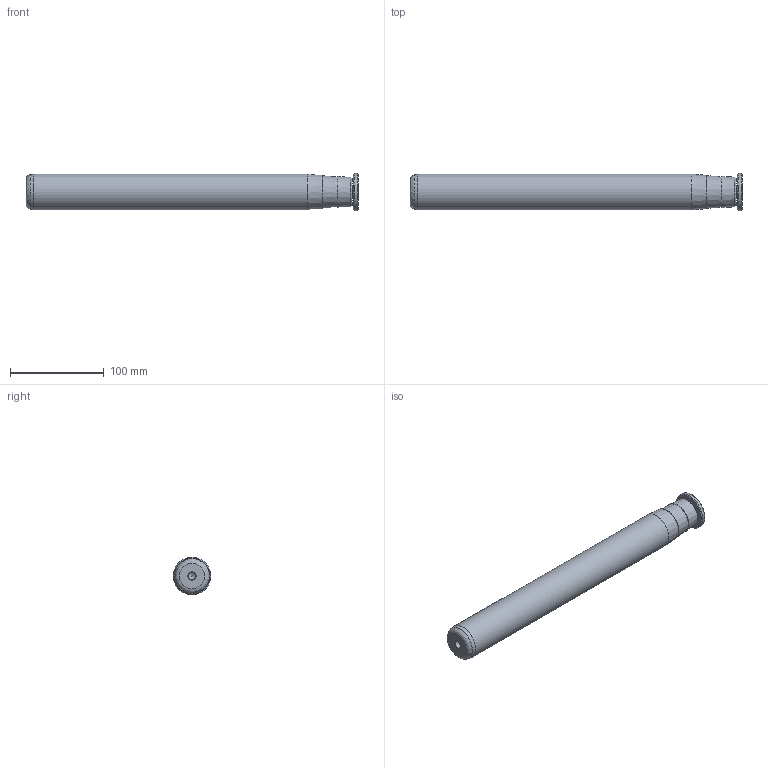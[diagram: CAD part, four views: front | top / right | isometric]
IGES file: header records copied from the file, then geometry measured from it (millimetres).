
Global section: file name: C5A38315.ipt; native system: Autodesk Inventor 2021; preprocessor: unknown; author: SM; date: 20211217.123108; units: millimetre
Bounding box: 354 x 40 x 40 mm (x, y, z)
Volume: 388136.5 mm3; surface area: 47510.3 mm2
Topology: 3 solids, 3 shells, 61 faces, 149 edges, 96 vertices
Faces by surface type: plane 32, revolution 13, cone 9, cylinder 4, bspline 3
Full cylindrical faces by diameter (mm): 8 x1, 15.879 x1, 38 x1, 40 x1
